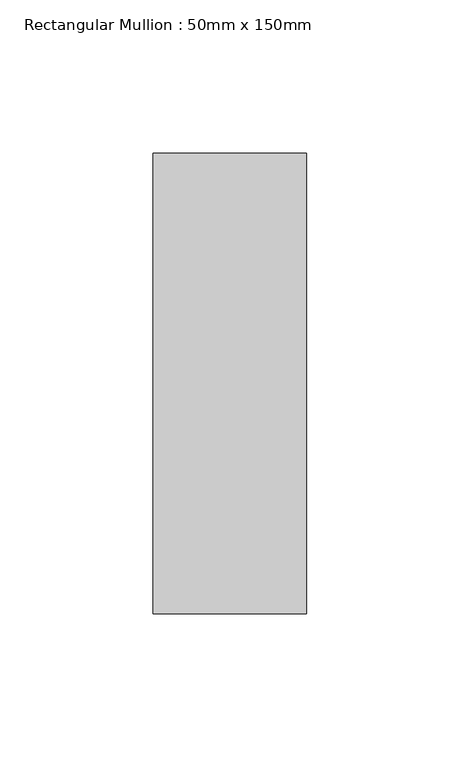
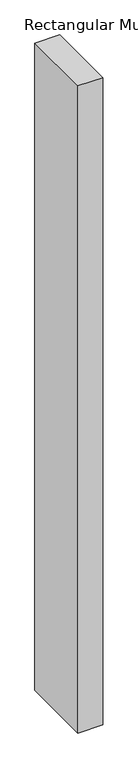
"""IFC4 building model written with IfcOpenShell, lengths in millimetres: member geometry, Rectangular Mullion : 50mm x 150mm."""

from ifc_helpers import new_model, si_unit, frame, origin, place, context, project, spatial, polyline, outline, extrude, source, transform, mapped, element, save


def rectangular_mullion_50mm_x_150mm_5a36e067(model_context):
    return source(origin(), model_context, "Body", "SweptSolid", [
        extrude(outline(polyline([(0.0, 75.0), (0.0, -75.0), (-50.0, -75.0), (-50.0, 75.0), (0.0, 75.0)])), frame((0.0, 0.0, -1376.0284883), z_axis=(0.0, 0.0, 1.0), x_axis=(1.0, 0.0, 0.0)), (0.0, 0.0, 1.0), 1376.0284883),
    ])


if __name__ == "__main__":
    model = new_model("IFC4")
    model_context = context("Model", 3, world=origin())
    ifc_project = project(units=[si_unit("LENGTHUNIT", "METRE", prefix="MILLI")], contexts=[model_context])
    site = spatial("IfcSite", under=ifc_project)
    building = spatial("IfcBuilding", under=site)
    placement = place(None, origin())
    rectangular_mullion_50mm_x_150mm_shape = rectangular_mullion_50mm_x_150mm_5a36e067(model_context)
    element("IfcMember", 1, ObjectType="Rectangular Mullion : 50mm x 150mm", at=placement, inside=building, context=model_context, shape_type="MappedRepresentation", body=[
        mapped(rectangular_mullion_50mm_x_150mm_shape, transform((0.0, 0.0, 0.0), x_axis=(1.0, 0.0, 0.0), y_axis=(0.0, 1.0, 0.0), z_axis=(0.0, 0.0, 1.0))),
    ])
    save(model, "model.ifc")
